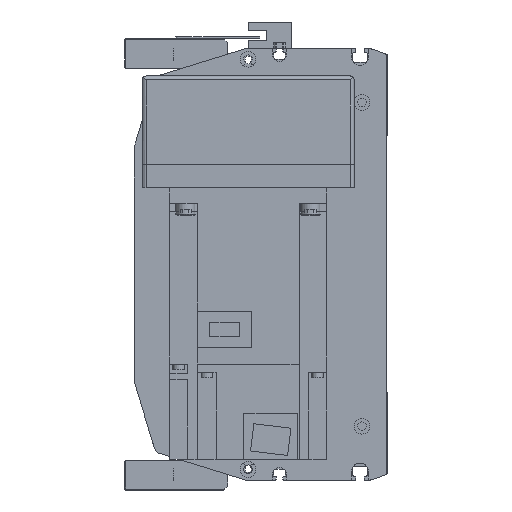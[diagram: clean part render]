
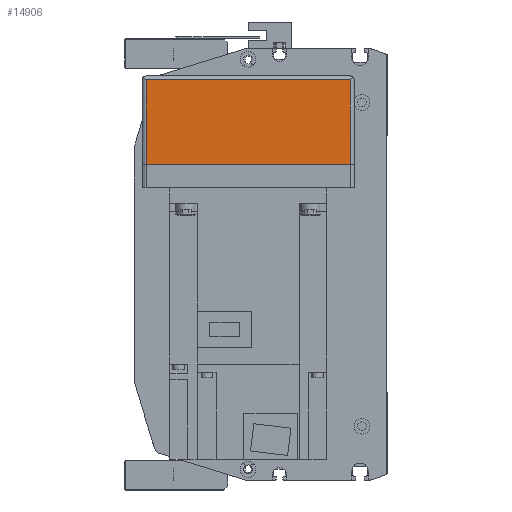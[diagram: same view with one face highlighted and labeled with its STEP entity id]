
A CAD part, left-side view. The second image highlights one B-rep face of the part: STEP entity #14906.
In plain terms, the highlighted planar face has unit normal (-1, 0, 0).
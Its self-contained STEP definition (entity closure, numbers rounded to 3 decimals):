
#2528=ORIENTED_EDGE('',*,*,#6068,.T.);
#2529=ORIENTED_EDGE('',*,*,#5996,.T.);
#2530=ORIENTED_EDGE('',*,*,#6069,.F.);
#2531=ORIENTED_EDGE('',*,*,#6008,.F.);
#5996=EDGE_CURVE('',#7912,#7915,#9458,.T.);
#6008=EDGE_CURVE('',#7922,#7924,#9463,.T.);
#6068=EDGE_CURVE('',#7922,#7912,#9505,.T.);
#6069=EDGE_CURVE('',#7924,#7915,#9506,.T.);
#7912=VERTEX_POINT('',#23185);
#7915=VERTEX_POINT('',#23191);
#7922=VERTEX_POINT('',#23214);
#7924=VERTEX_POINT('',#23217);
#9458=LINE('',#23192,#10809);
#9463=LINE('',#23216,#10814);
#9505=LINE('',#23340,#10856);
#9506=LINE('',#23341,#10857);
#10809=VECTOR('',#18511,1000.);
#10814=VECTOR('',#18538,1000.);
#10856=VECTOR('',#18658,1000.);
#10857=VECTOR('',#18659,1000.);
#12017=EDGE_LOOP('',(#2528,#2529,#2530,#2531));
#13224=FACE_BOUND('',#12017,.T.);
#14269=PLANE('',#16007);
#14906=ADVANCED_FACE('',(#13224),#14269,.T.);
#16007=AXIS2_PLACEMENT_3D('',#23339,#18656,#18657);
#18511=DIRECTION('',(0.,0.,1.));
#18538=DIRECTION('',(0.,0.,1.));
#18656=DIRECTION('',(-1.,0.,0.));
#18657=DIRECTION('',(0.,0.,1.));
#18658=DIRECTION('',(0.,-1.,0.));
#18659=DIRECTION('',(0.,-1.,0.));
#23185=CARTESIAN_POINT('',(-230.,-52.,-55.));
#23191=CARTESIAN_POINT('',(-230.,-52.,-12.));
#23192=CARTESIAN_POINT('',(-230.,-52.,-57.));
#23214=CARTESIAN_POINT('',(-230.,52.,-55.));
#23216=CARTESIAN_POINT('',(-230.,52.,-57.));
#23217=CARTESIAN_POINT('',(-230.,52.,-12.));
#23339=CARTESIAN_POINT('',(-230.,52.,-57.));
#23340=CARTESIAN_POINT('',(-230.,54.,-55.));
#23341=CARTESIAN_POINT('',(-230.,52.,-12.));
